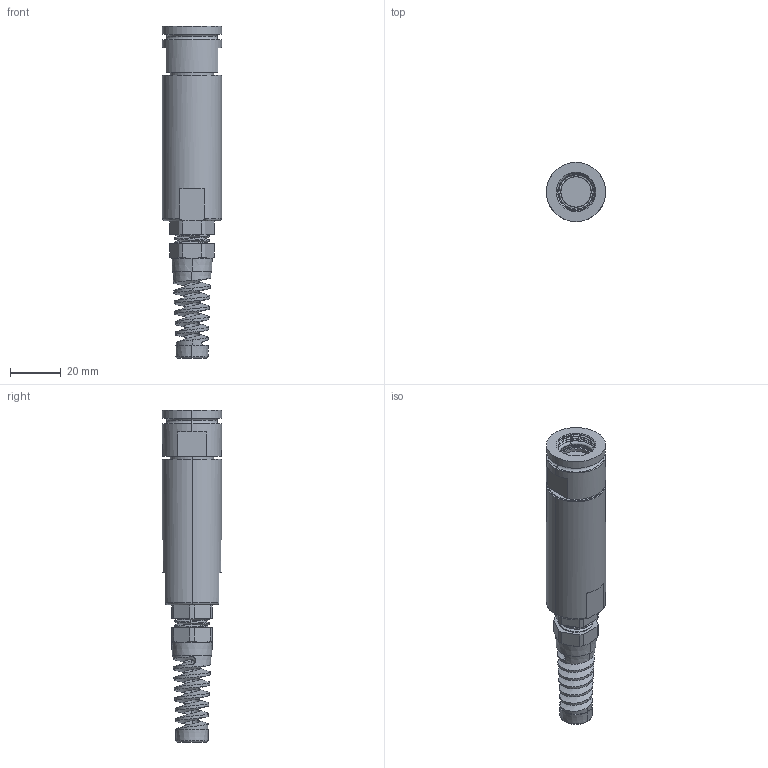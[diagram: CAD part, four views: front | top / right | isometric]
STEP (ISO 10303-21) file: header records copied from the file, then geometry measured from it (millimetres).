
FILE_DESCRIPTION (( 'STEP AP214' ), '1' );
FILE_NAME ('Q38SHELL-STX-11-XXXX-GB.STEP', '2025-09-09T20:30:07', ( '' ), ( '' ), 'SwSTEP 2.0', 'SolidWorks 2024', '' );
FILE_SCHEMA (( 'AUTOMOTIVE_DESIGN' ));
Length unit declared in the file: millimetre
Products named in the file (1): Q38SHELL-STX-11-XXXX-GB
Bounding box: 23.24 x 23.24 x 130.43 mm (x, y, z)
Volume: 35731.5 mm3; surface area: 12511.6 mm2
Topology: 2 solids, 2 shells, 232 faces, 741 edges, 527 vertices
Faces by surface type: plane 104, cylinder 70, cone 38, torus 13, bspline 7
Entity records: 12014 total; most frequent: CARTESIAN_POINT 5889, ORIENTED_EDGE 1482, DIRECTION 1075, EDGE_CURVE 741, VERTEX_POINT 527, AXIS2_PLACEMENT_3D 440, B_SPLINE_CURVE_WITH_KNOTS 255, EDGE_LOOP 250
